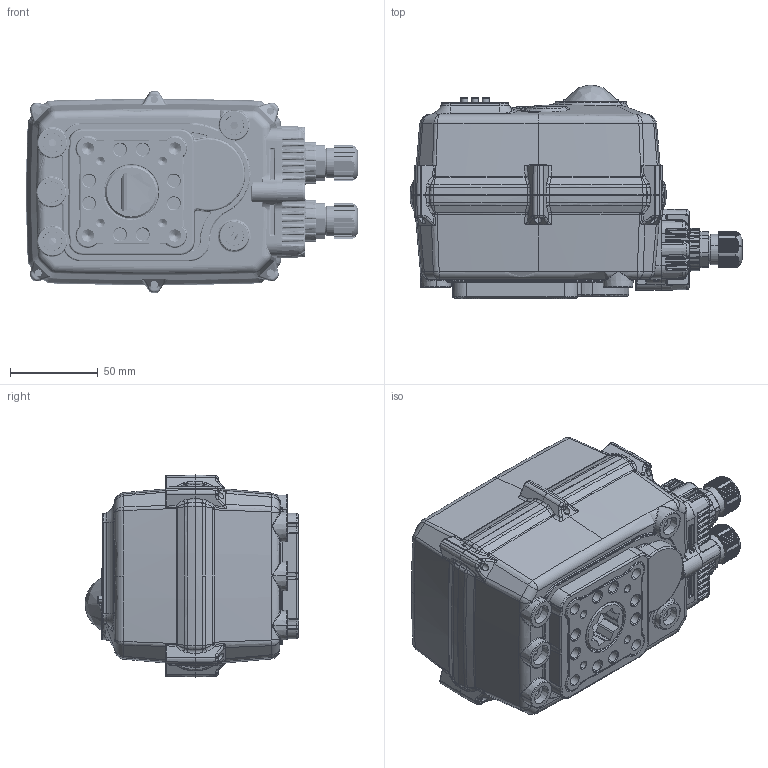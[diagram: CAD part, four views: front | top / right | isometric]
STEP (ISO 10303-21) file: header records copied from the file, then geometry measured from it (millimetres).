
FILE_DESCRIPTION (( 'STEP AP203' ), '1' );
FILE_NAME ('TCR06俋倛蚾饜-覃誹.STEP', '2017-06-05T06:57:28', ( '' ), ( '' ), 'SwSTEP 2.0', 'SolidWorks 2015', '' );
FILE_SCHEMA (( 'CONFIG_CONTROL_DESIGN' ));
Length unit declared in the file: inch
Products named in the file (12): 珘儒噩え; TCR05-执行器上盖-5度拔模-圆弧形螺钉-小锣柱方案; 偌瑩8.1mm; 臏菁釱-B02 (2)_1; TCR06俋倛蚾饜-覃誹; 忒雄粣蚐猾18x10x4; 忒雄粣-TCR05; 噩え俋褲-145X110; 输出轴及其齿轮-内八方_1; 接线盒盖-双出线盖 145x110-定型; M14-1.5呿蹋諉盄坶譫; TCR06-硒俴ん狟裔-20170216
Assembly tree (12 placements, depth 2):
  TCR06俋倛蚾饜-覃誹
    TCR06-硒俴ん狟裔-20170216
    TCR05-执行器上盖-5度拔模-圆弧形螺钉-小锣柱方案
    臏菁釱-B02 (2)_1
    忒雄粣蚐猾18x10x4
    忒雄粣-TCR05
    噩え俋褲-145X110
    输出轴及其齿轮-内八方_1
    接线盒盖-双出线盖 145x110-定型
    M14-1.5呿蹋諉盄坶譫  x2
    珘儒噩え
    偌瑩8.1mm
Bounding box: 189 x 121.72 x 115 mm (x, y, z)
Volume: 318521.3 mm3; surface area: 207770.8 mm2
Topology: 13 solids, 17 shells, 5090 faces, 12737 edges, 7764 vertices
Faces by surface type: bspline 1407, plane 1387, cylinder 1191, cone 504, torus 441, sphere 160
Entity records: 202860 total; most frequent: CARTESIAN_POINT 100582, ORIENTED_EDGE 23738, DIRECTION 17505, EDGE_CURVE 11869, VERTEX_POINT 7219, AXIS2_PLACEMENT_3D 6831, EDGE_LOOP 4986, ADVANCED_FACE 4799
